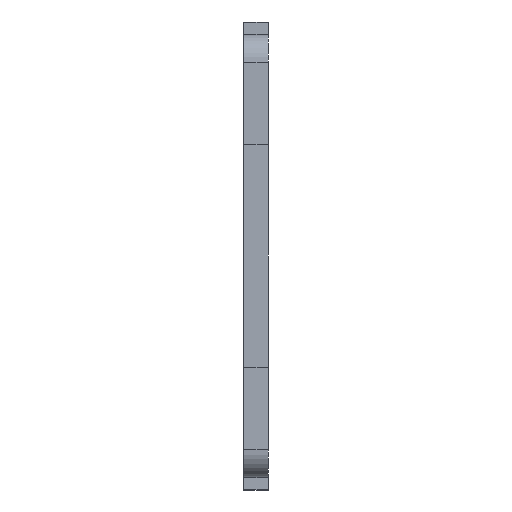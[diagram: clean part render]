
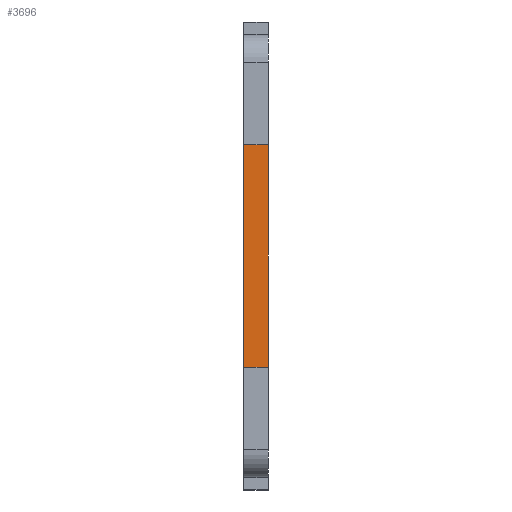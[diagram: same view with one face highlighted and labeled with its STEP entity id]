
A CAD part, left-side view. The second image highlights one B-rep face of the part: STEP entity #3696.
In plain terms, the highlighted planar face has unit normal (-1, 0, 0).
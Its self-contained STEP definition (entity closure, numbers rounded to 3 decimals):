
#195 = LINE ( 'NONE', #2488, #925 ) ;
#229 = DIRECTION ( 'NONE',  ( 0., 1., 0. ) ) ;
#537 = DIRECTION ( 'NONE',  ( 1., 0., 0. ) ) ;
#542 = DIRECTION ( 'NONE',  ( 0., 0., -1. ) ) ;
#561 = DIRECTION ( 'NONE',  ( 0., 0., -1. ) ) ;
#714 = VECTOR ( 'NONE', #542, 1000. ) ;
#854 = VECTOR ( 'NONE', #229, 1000. ) ;
#925 = VECTOR ( 'NONE', #1351, 1000. ) ;
#942 = CARTESIAN_POINT ( 'NONE',  ( -94., 2., -29. ) ) ;
#1028 = LINE ( 'NONE', #2917, #2978 ) ;
#1050 = ORIENTED_EDGE ( 'NONE', *, *, #3997, .T. ) ;
#1062 = EDGE_CURVE ( 'NONE', #4014, #1857, #3038, .T. ) ;
#1351 = DIRECTION ( 'NONE',  ( 0., 1., 0. ) ) ;
#1773 = LINE ( 'NONE', #3348, #854 ) ;
#1857 = VERTEX_POINT ( 'NONE', #3933 ) ;
#1973 = EDGE_LOOP ( 'NONE', ( #4294, #1050, #4351, #2423 ) ) ;
#2423 = ORIENTED_EDGE ( 'NONE', *, *, #4435, .F. ) ;
#2488 = CARTESIAN_POINT ( 'NONE',  ( -94., -1., 13.8 ) ) ;
#2595 = FACE_OUTER_BOUND ( 'NONE', #1973, .T. ) ;
#2824 = AXIS2_PLACEMENT_3D ( 'NONE', #942, #537, #561 ) ;
#2917 = CARTESIAN_POINT ( 'NONE',  ( -94., 2., -29. ) ) ;
#2927 = VERTEX_POINT ( 'NONE', #3355 ) ;
#2978 = VECTOR ( 'NONE', #3023, 1000. ) ;
#3023 = DIRECTION ( 'NONE',  ( 0., 0., 1. ) ) ;
#3038 = LINE ( 'NONE', #4613, #714 ) ;
#3070 = CARTESIAN_POINT ( 'NONE',  ( -94., 2., -13.8 ) ) ;
#3292 = EDGE_CURVE ( 'NONE', #4639, #2927, #1028, .T. ) ;
#3348 = CARTESIAN_POINT ( 'NONE',  ( -94., -1., -13.8 ) ) ;
#3355 = CARTESIAN_POINT ( 'NONE',  ( -94., 2., 13.8 ) ) ;
#3393 = PLANE ( 'NONE',  #2824 ) ;
#3696 = ADVANCED_FACE ( 'NONE', ( #2595 ), #3393, .F. ) ;
#3701 = CARTESIAN_POINT ( 'NONE',  ( -94., -1., 13.8 ) ) ;
#3933 = CARTESIAN_POINT ( 'NONE',  ( -94., -1., -13.8 ) ) ;
#3997 = EDGE_CURVE ( 'NONE', #4014, #2927, #195, .T. ) ;
#4014 = VERTEX_POINT ( 'NONE', #3701 ) ;
#4294 = ORIENTED_EDGE ( 'NONE', *, *, #1062, .F. ) ;
#4351 = ORIENTED_EDGE ( 'NONE', *, *, #3292, .F. ) ;
#4435 = EDGE_CURVE ( 'NONE', #1857, #4639, #1773, .T. ) ;
#4613 = CARTESIAN_POINT ( 'NONE',  ( -94., -1., 29. ) ) ;
#4639 = VERTEX_POINT ( 'NONE', #3070 ) ;
